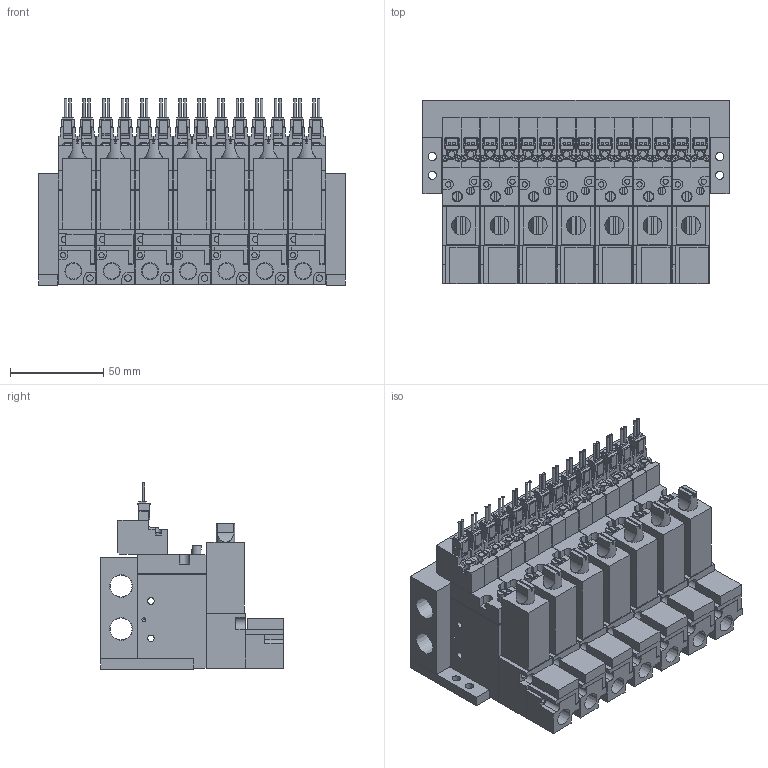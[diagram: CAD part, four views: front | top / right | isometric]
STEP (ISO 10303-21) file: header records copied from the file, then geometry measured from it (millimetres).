
FILE_DESCRIPTION(('STEP AP203'),'1');
FILE_NAME('BMPV32M2NZ25BL707.stp','2025-06-17T01:48:39',(' '),(' '),'Spatial InterOp 3D',' ',' ');
FILE_SCHEMA(('CONFIG_CONTROL_DESIGN'));
Length unit declared in the file: millimetre
Products named in the file (88): BMPV32M2NZ25BL707; S____; ___ ___2; ___-2(Rc); Filter Assy; __; _____; MB BRACKET; BMPV32 MB07; ___; upper plate-A; ______; ____; VACUUM VALVE FUNCTION MPV42-A
Assembly tree (87 placements, depth 2):
  BMPV32M2NZ25BL707
    S____
    ___ ___2
    ___-2(Rc)
    Filter Assy
    __
    _____
    S____
    ___ ___2
    ___-2(Rc)
    Filter Assy
    __
    _____
    S____
    ___ ___2
    ___-2(Rc)
    Filter Assy
    __
    _____
    S____
    ___ ___2
    ___-2(Rc)
    Filter Assy
    __
    _____
    S____
    ___ ___2
    ___-2(Rc)
    Filter Assy
    __
    _____
    S____
    ___ ___2
    ___-2(Rc)
    Filter Assy
    __
    _____
    MB BRACKET
    MB BRACKET
    BMPV32 MB07
    S____
    ___ ___2
    ___-2(Rc)
    Filter Assy
    __
    _____
    ___
    upper plate-A
    ______
    ____
    VACUUM VALVE FUNCTION MPV42-A
    VACUUM VALVE FUNCTION MPV42-A
    ___
    upper plate-A
    ______
    ____
    VACUUM VALVE FUNCTION MPV42-A
    VACUUM VALVE FUNCTION MPV42-A
    ___
    upper plate-A
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Bounding box: 164 x 98 x 99.75 mm (x, y, z)
Volume: 742423.5 mm3; surface area: 252834.5 mm2
Topology: 87 solids, 87 shells, 2420 faces, 6365 edges, 4236 vertices
Faces by surface type: plane 1967, cylinder 403, cone 50
Full cylindrical faces by diameter (mm): 1.4 x28, 1.8 x14, 2 x14, 2.5 x18, 2.8 x28, 3 x28, 3.5 x74, 4 x7, 4.2 x7, 4.5 x4, 5 x7, 5.5 x7, 6.5 x6, 8.522 x7, 11.776 x2
Entity records: 76747 total; most frequent: CARTESIAN_POINT 13098, DIRECTION 11977, ORIENTED_EDGE 11854, EDGE_CURVE 5927, LINE 4837, VECTOR 4837, VERTEX_POINT 4145, AXIS2_PLACEMENT_3D 3570
